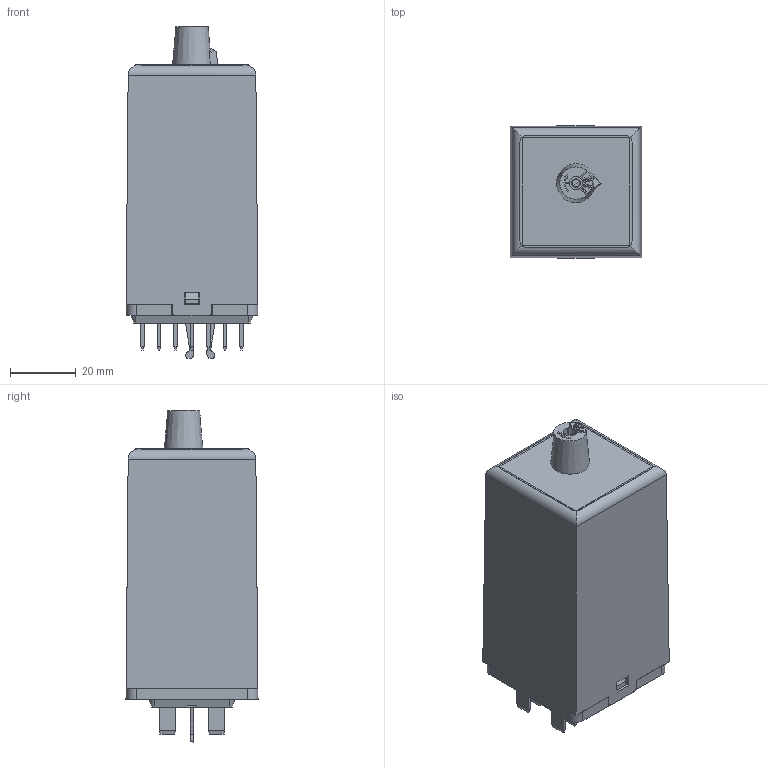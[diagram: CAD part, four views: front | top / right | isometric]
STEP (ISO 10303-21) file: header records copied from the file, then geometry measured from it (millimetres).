
FILE_DESCRIPTION((''),'2;1');
FILE_NAME('I:\TI\Bibliotheek\Inventor\Relais\WDDE\WDDE variable.stp','2011-03-09T07:14:58',('oey'),(''),'Autodesk Inventor 2011','Autodesk Inventor 2011','');
FILE_SCHEMA(('AUTOMOTIVE_DESIGN { 1 0 10303 214 1 1 1 1 }'));
Length unit declared in the file: millimetre
Products named in the file (1): WDDE variable
Bounding box: 40 x 40.06 x 100.75 mm (x, y, z)
Volume: 30116.6 mm3; surface area: 36472.6 mm2
Topology: 1 solids, 1 shells, 1563 faces, 4456 edges, 2844 vertices
Faces by surface type: plane 941, cylinder 422, bspline 134, sphere 56, cone 9, torus 1
Full cylindrical faces by diameter (mm): 1.6 x14, 1.7 x1, 2.2 x1, 2.7 x4, 5.4 x1, 6 x1
Entity records: 53266 total; most frequent: CARTESIAN_POINT 10960, ORIENTED_EDGE 8836, DIRECTION 8034, EDGE_CURVE 4418, VECTOR 3090, LINE 3090, VERTEX_POINT 2824, AXIS2_PLACEMENT_3D 2472
